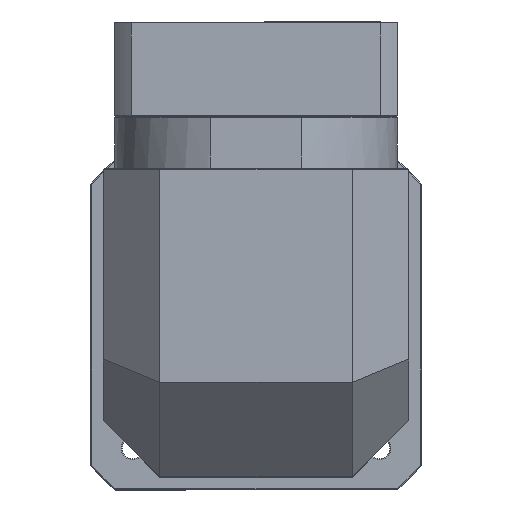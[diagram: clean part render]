
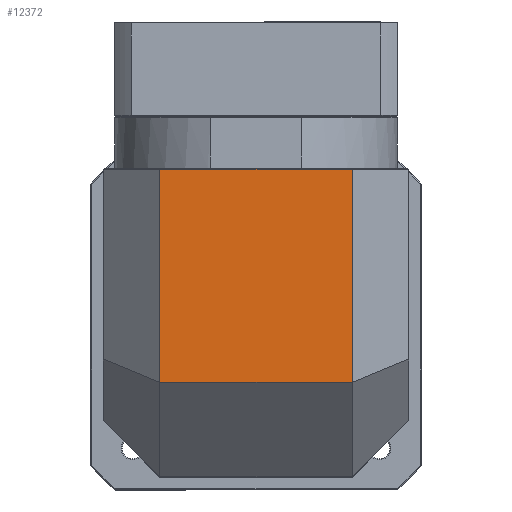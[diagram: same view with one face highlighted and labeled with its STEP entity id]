
A CAD part, top view. The second image highlights one B-rep face of the part: STEP entity #12372.
In plain terms, the highlighted planar face has unit normal (0, 0, 1).
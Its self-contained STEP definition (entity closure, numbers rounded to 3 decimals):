
#6246 = CARTESIAN_POINT ( 'NONE',  ( -107.694, 11.388, 425.95 ) ) ;
#7535 = VECTOR ( 'NONE', #48116, 1000. ) ;
#8271 = ORIENTED_EDGE ( 'NONE', *, *, #93138, .T. ) ;
#8619 = DIRECTION ( 'NONE',  ( 0., 0., -1. ) ) ;
#9862 = DIRECTION ( 'NONE',  ( -1., 0., 0. ) ) ;
#10733 = FACE_OUTER_BOUND ( 'NONE', #73918, .T. ) ;
#12372 = ADVANCED_FACE ( 'NONE', ( #10733 ), #82699, .F. ) ;
#14801 = LINE ( 'NONE', #93214, #93943 ) ;
#17008 = CARTESIAN_POINT ( 'NONE',  ( -137.694, -20.362, 425.95 ) ) ;
#27912 = EDGE_CURVE ( 'NONE', #127333, #48288, #70129, .T. ) ;
#37971 = VERTEX_POINT ( 'NONE', #131633 ) ;
#39464 = CARTESIAN_POINT ( 'NONE',  ( -107.694, 92.638, 425.95 ) ) ;
#48116 = DIRECTION ( 'NONE',  ( 0., 1., 0. ) ) ;
#48288 = VERTEX_POINT ( 'NONE', #39464 ) ;
#49406 = AXIS2_PLACEMENT_3D ( 'NONE', #104805, #8619, #92883 ) ;
#53791 = CARTESIAN_POINT ( 'NONE',  ( -5.694, 93.138, 425.95 ) ) ;
#65269 = DIRECTION ( 'NONE',  ( 0., 1., 0. ) ) ;
#67035 = EDGE_CURVE ( 'NONE', #37971, #48288, #14801, .T. ) ;
#70129 = LINE ( 'NONE', #6246, #7535 ) ;
#73918 = EDGE_LOOP ( 'NONE', ( #124718, #99250, #96646, #8271 ) ) ;
#74511 = DIRECTION ( 'NONE',  ( 1., 0., 0. ) ) ;
#74611 = VECTOR ( 'NONE', #65269, 1000. ) ;
#77894 = LINE ( 'NONE', #17008, #127424 ) ;
#82699 = PLANE ( 'NONE',  #49406 ) ;
#92883 = DIRECTION ( 'NONE',  ( 1., 0., 0. ) ) ;
#93138 = EDGE_CURVE ( 'NONE', #127333, #127883, #77894, .T. ) ;
#93214 = CARTESIAN_POINT ( 'NONE',  ( -137.694, 92.638, 425.95 ) ) ;
#93943 = VECTOR ( 'NONE', #9862, 1000. ) ;
#96646 = ORIENTED_EDGE ( 'NONE', *, *, #27912, .F. ) ;
#99250 = ORIENTED_EDGE ( 'NONE', *, *, #67035, .T. ) ;
#104805 = CARTESIAN_POINT ( 'NONE',  ( -137.694, 93.138, 425.95 ) ) ;
#124718 = ORIENTED_EDGE ( 'NONE', *, *, #129592, .T. ) ;
#127333 = VERTEX_POINT ( 'NONE', #129689 ) ;
#127424 = VECTOR ( 'NONE', #74511, 1000. ) ;
#127883 = VERTEX_POINT ( 'NONE', #128208 ) ;
#128208 = CARTESIAN_POINT ( 'NONE',  ( -5.694, -20.362, 425.95 ) ) ;
#129592 = EDGE_CURVE ( 'NONE', #127883, #37971, #130594, .T. ) ;
#129689 = CARTESIAN_POINT ( 'NONE',  ( -107.694, -20.362, 425.95 ) ) ;
#130594 = LINE ( 'NONE', #53791, #74611 ) ;
#131633 = CARTESIAN_POINT ( 'NONE',  ( -5.694, 92.638, 425.95 ) ) ;
